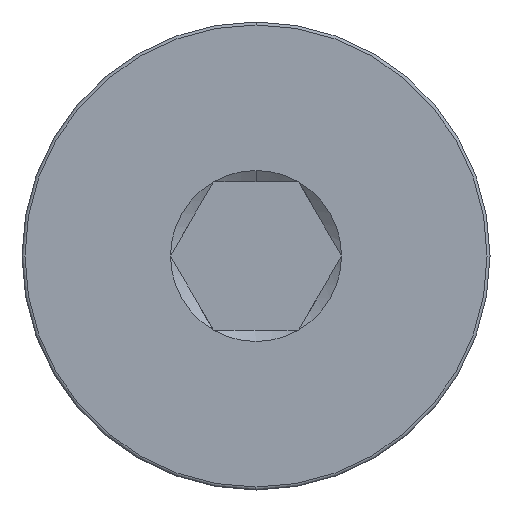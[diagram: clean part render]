
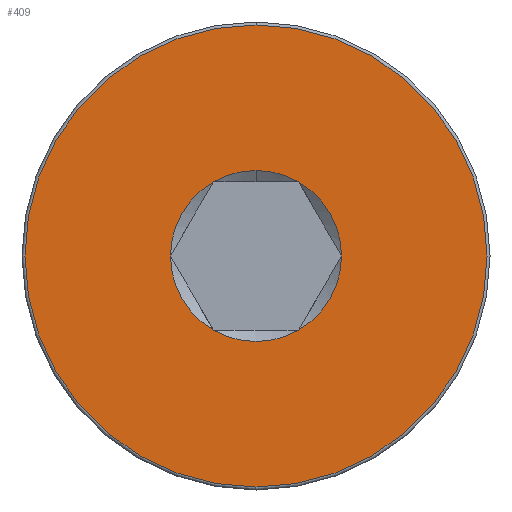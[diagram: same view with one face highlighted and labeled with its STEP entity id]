
A CAD part, left-side view. The second image highlights one B-rep face of the part: STEP entity #409.
In plain terms, the highlighted planar face has unit normal (-1, 0, 0).
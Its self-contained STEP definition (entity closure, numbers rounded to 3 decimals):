
#3 = DIRECTION ( 'NONE',  ( 0., 0., 1. ) ) ;
#9 = ORIENTED_EDGE ( 'NONE', *, *, #137, .T. ) ;
#17 = VERTEX_POINT ( 'NONE', #266 ) ;
#20 = EDGE_CURVE ( 'NONE', #76, #586, #63, .T. ) ;
#21 = ORIENTED_EDGE ( 'NONE', *, *, #680, .T. ) ;
#24 = DIRECTION ( 'NONE',  ( 0., 0., -1. ) ) ;
#40 = DIRECTION ( 'NONE',  ( 1., 0., 0. ) ) ;
#43 = DIRECTION ( 'NONE',  ( 1., 0., 0. ) ) ;
#47 = DIRECTION ( 'NONE',  ( 1., 0., 0. ) ) ;
#51 = CIRCLE ( 'NONE', #612, 2.887 ) ;
#55 = ORIENTED_EDGE ( 'NONE', *, *, #640, .T. ) ;
#58 = CARTESIAN_POINT ( 'NONE',  ( 0., -2.887, 0. ) ) ;
#63 = CIRCLE ( 'NONE', #603, 7.8 ) ;
#64 = CIRCLE ( 'NONE', #567, 2.887 ) ;
#65 = CARTESIAN_POINT ( 'NONE',  ( 0., 0., 2.887 ) ) ;
#76 = VERTEX_POINT ( 'NONE', #576 ) ;
#78 = CIRCLE ( 'NONE', #799, 2.887 ) ;
#94 = CARTESIAN_POINT ( 'NONE',  ( 0., 0., -7.8 ) ) ;
#100 = DIRECTION ( 'NONE',  ( 0., 0., -1. ) ) ;
#107 = DIRECTION ( 'NONE',  ( 1., 0., 0. ) ) ;
#126 = CARTESIAN_POINT ( 'NONE',  ( 0., 2.887, 0. ) ) ;
#133 = VERTEX_POINT ( 'NONE', #780 ) ;
#137 = EDGE_CURVE ( 'NONE', #17, #248, #357, .T. ) ;
#147 = AXIS2_PLACEMENT_3D ( 'NONE', #500, #506, #3 ) ;
#159 = CIRCLE ( 'NONE', #432, 2.887 ) ;
#173 = CARTESIAN_POINT ( 'NONE',  ( 0., 1.443, 2.5 ) ) ;
#183 = AXIS2_PLACEMENT_3D ( 'NONE', #679, #43, #299 ) ;
#201 = ORIENTED_EDGE ( 'NONE', *, *, #288, .T. ) ;
#219 = CARTESIAN_POINT ( 'NONE',  ( 0., 0., 0. ) ) ;
#232 = DIRECTION ( 'NONE',  ( 1., 0., 0. ) ) ;
#235 = DIRECTION ( 'NONE',  ( 0., 0., 1. ) ) ;
#236 = DIRECTION ( 'NONE',  ( 1., 0., 0. ) ) ;
#248 = VERTEX_POINT ( 'NONE', #58 ) ;
#250 = PLANE ( 'NONE',  #147 ) ;
#266 = CARTESIAN_POINT ( 'NONE',  ( 0., -1.443, 2.5 ) ) ;
#272 = VERTEX_POINT ( 'NONE', #126 ) ;
#282 = DIRECTION ( 'NONE',  ( 0., 0., -1. ) ) ;
#288 = EDGE_CURVE ( 'NONE', #740, #311, #64, .T. ) ;
#291 = CIRCLE ( 'NONE', #724, 7.8 ) ;
#299 = DIRECTION ( 'NONE',  ( 0., 0., -1. ) ) ;
#308 = FACE_OUTER_BOUND ( 'NONE', #318, .T. ) ;
#311 = VERTEX_POINT ( 'NONE', #65 ) ;
#318 = EDGE_LOOP ( 'NONE', ( #687, #729 ) ) ;
#336 = CARTESIAN_POINT ( 'NONE',  ( 0., 0., 0. ) ) ;
#357 = CIRCLE ( 'NONE', #460, 2.887 ) ;
#377 = EDGE_CURVE ( 'NONE', #248, #133, #639, .T. ) ;
#388 = ORIENTED_EDGE ( 'NONE', *, *, #377, .T. ) ;
#405 = DIRECTION ( 'NONE',  ( -1., 0., 0. ) ) ;
#409 = ADVANCED_FACE ( 'NONE', ( #800, #308 ), #250, .T. ) ;
#411 = DIRECTION ( 'NONE',  ( 1., 0., 0. ) ) ;
#432 = AXIS2_PLACEMENT_3D ( 'NONE', #660, #40, #100 ) ;
#456 = ORIENTED_EDGE ( 'NONE', *, *, #693, .T. ) ;
#460 = AXIS2_PLACEMENT_3D ( 'NONE', #601, #411, #470 ) ;
#470 = DIRECTION ( 'NONE',  ( 0., 0., -1. ) ) ;
#479 = CARTESIAN_POINT ( 'NONE',  ( 0., 1.443, -2.5 ) ) ;
#487 = CARTESIAN_POINT ( 'NONE',  ( 0., 0., 0. ) ) ;
#491 = DIRECTION ( 'NONE',  ( 0., 0., -1. ) ) ;
#498 = CARTESIAN_POINT ( 'NONE',  ( 0., 0., 0. ) ) ;
#500 = CARTESIAN_POINT ( 'NONE',  ( 0., 0., 0. ) ) ;
#503 = EDGE_LOOP ( 'NONE', ( #670, #201, #21, #9, #388, #55, #456 ) ) ;
#506 = DIRECTION ( 'NONE',  ( -1., 0., 0. ) ) ;
#567 = AXIS2_PLACEMENT_3D ( 'NONE', #487, #236, #491 ) ;
#576 = CARTESIAN_POINT ( 'NONE',  ( 0., 0., 7.8 ) ) ;
#579 = VERTEX_POINT ( 'NONE', #479 ) ;
#586 = VERTEX_POINT ( 'NONE', #94 ) ;
#601 = CARTESIAN_POINT ( 'NONE',  ( 0., 0., 0. ) ) ;
#603 = AXIS2_PLACEMENT_3D ( 'NONE', #336, #405, #634 ) ;
#612 = AXIS2_PLACEMENT_3D ( 'NONE', #657, #232, #282 ) ;
#617 = CARTESIAN_POINT ( 'NONE',  ( 0., 0., 0. ) ) ;
#634 = DIRECTION ( 'NONE',  ( 0., 0., 1. ) ) ;
#639 = CIRCLE ( 'NONE', #733, 2.887 ) ;
#640 = EDGE_CURVE ( 'NONE', #133, #579, #159, .T. ) ;
#657 = CARTESIAN_POINT ( 'NONE',  ( 0., 0., 0. ) ) ;
#660 = CARTESIAN_POINT ( 'NONE',  ( 0., 0., 0. ) ) ;
#670 = ORIENTED_EDGE ( 'NONE', *, *, #698, .T. ) ;
#679 = CARTESIAN_POINT ( 'NONE',  ( 0., 0., 0. ) ) ;
#680 = EDGE_CURVE ( 'NONE', #311, #17, #51, .T. ) ;
#687 = ORIENTED_EDGE ( 'NONE', *, *, #20, .T. ) ;
#693 = EDGE_CURVE ( 'NONE', #579, #272, #78, .T. ) ;
#698 = EDGE_CURVE ( 'NONE', #272, #740, #715, .T. ) ;
#715 = CIRCLE ( 'NONE', #183, 2.887 ) ;
#724 = AXIS2_PLACEMENT_3D ( 'NONE', #498, #730, #235 ) ;
#729 = ORIENTED_EDGE ( 'NONE', *, *, #774, .T. ) ;
#730 = DIRECTION ( 'NONE',  ( -1., 0., 0. ) ) ;
#733 = AXIS2_PLACEMENT_3D ( 'NONE', #617, #47, #788 ) ;
#740 = VERTEX_POINT ( 'NONE', #173 ) ;
#774 = EDGE_CURVE ( 'NONE', #586, #76, #291, .T. ) ;
#780 = CARTESIAN_POINT ( 'NONE',  ( 0., -1.443, -2.5 ) ) ;
#788 = DIRECTION ( 'NONE',  ( 0., 0., -1. ) ) ;
#799 = AXIS2_PLACEMENT_3D ( 'NONE', #219, #107, #24 ) ;
#800 = FACE_BOUND ( 'NONE', #503, .T. ) ;
